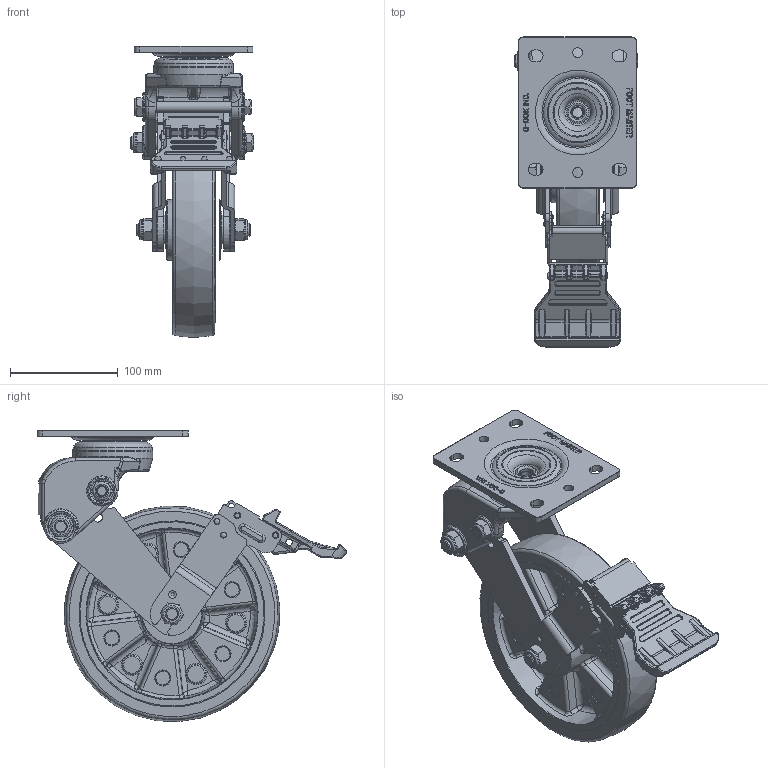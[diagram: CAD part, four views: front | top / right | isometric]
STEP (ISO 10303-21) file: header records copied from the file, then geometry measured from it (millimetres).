
FILE_DESCRIPTION(/* description */ (''),/* implementation_level */ '2;1');
FILE_NAME(/* name */ 'D:\★제품 렌더링\모델링파일\FULL 3D\GDS-200-SERIES\외부용\GDS-200-BSF-PEU-ASSY_Shrinkwrap_1.stp',/* time_stamp */ '2022-12-26T15:15:23+09:00',/* author */ ('장용하'),/* organization */ (''),/* preprocessor_version */ 'ST-DEVELOPER v18.1',/* originating_system */ 'Autodesk Inventor 2021',/* authorisation */ '');
FILE_SCHEMA (('AUTOMOTIVE_DESIGN { 1 0 10303 214 3 1 1 }'));
Products named in the file (1): GDS-200-BSF-PEU-ASSY_Shrinkwrap_1
Bounding box: 114.5 x 287.03 x 269.79 mm (x, y, z)
Volume: 1223754.8 mm3; surface area: 300147 mm2
Topology: 3 solids, 3 shells, 1897 faces, 4882 edges, 2977 vertices
Faces by surface type: plane 582, bspline 451, cylinder 443, torus 251, cone 110, sphere 60
Full cylindrical faces by diameter (mm): 4 x2, 4.2 x4, 4.8 x2, 6 x2, 7.5 x2, 8 x2, 8.2 x2, 9 x2, 9.3 x1, 10 x1, 10.7 x1, 12 x4, 12.2 x2, 13 x3, 18.5 x3, 18.6 x1, 18.8 x1, 20 x2, 24 x1, 25 x1, 26 x2, 27 x2, 35 x2, 62 x1, 74 x1
Entity records: 76794 total; most frequent: CARTESIAN_POINT 30860, ORIENTED_EDGE 9546, DIRECTION 8768, EDGE_CURVE 4773, AXIS2_PLACEMENT_3D 3496, VERTEX_POINT 2977, EDGE_LOOP 2040, FACE_OUTER_BOUND 1897
